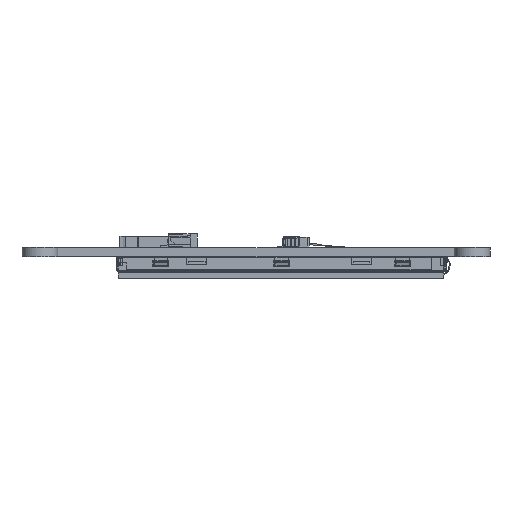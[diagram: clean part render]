
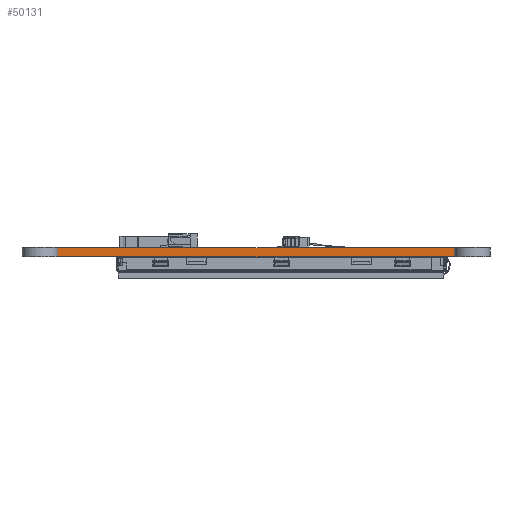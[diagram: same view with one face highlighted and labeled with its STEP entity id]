
A CAD part, left-side view. The second image highlights one B-rep face of the part: STEP entity #50131.
In plain terms, the highlighted planar face has unit normal (-1, 0, 0).
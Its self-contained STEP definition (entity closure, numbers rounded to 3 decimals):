
#4600 = EDGE_CURVE ( 'NONE', #126874, #213342, #108573, .T. ) ;
#7789 = VERTEX_POINT ( 'NONE', #66956 ) ;
#20323 = EDGE_CURVE ( 'NONE', #213342, #7789, #135081, .T. ) ;
#20549 = CARTESIAN_POINT ( 'NONE',  ( 71.074, 99.276, 58.753 ) ) ;
#22973 = CARTESIAN_POINT ( 'NONE',  ( 71.074, 99.276, 58.753 ) ) ;
#24027 = LINE ( 'NONE', #22973, #112318 ) ;
#34399 = CARTESIAN_POINT ( 'NONE',  ( 71.074, 27.127, 60.353 ) ) ;
#39543 = ORIENTED_EDGE ( 'NONE', *, *, #162554, .F. ) ;
#40285 = DIRECTION ( 'NONE',  ( 0., 1., 0. ) ) ;
#45176 = VERTEX_POINT ( 'NONE', #20549 ) ;
#50131 = ADVANCED_FACE ( 'NONE', ( #134441 ), #186507, .F. ) ;
#51156 = EDGE_LOOP ( 'NONE', ( #142994, #39543, #193827, #180006 ) ) ;
#53595 = VECTOR ( 'NONE', #158476, 1000. ) ;
#55161 = DIRECTION ( 'NONE',  ( 0., 1., 0. ) ) ;
#57042 = DIRECTION ( 'NONE',  ( 0., 1., 0. ) ) ;
#66956 = CARTESIAN_POINT ( 'NONE',  ( 71.074, 99.276, 60.353 ) ) ;
#74060 = VECTOR ( 'NONE', #57042, 1000. ) ;
#85609 = DIRECTION ( 'NONE',  ( 1., 0., 0. ) ) ;
#85992 = DIRECTION ( 'NONE',  ( 0., 0., 1. ) ) ;
#92290 = CARTESIAN_POINT ( 'NONE',  ( 71.074, 27.127, 58.753 ) ) ;
#94969 = VECTOR ( 'NONE', #40285, 1000. ) ;
#108573 = LINE ( 'NONE', #92290, #53595 ) ;
#112318 = VECTOR ( 'NONE', #85992, 1000. ) ;
#124326 = CARTESIAN_POINT ( 'NONE',  ( 71.074, 63.201, 58.753 ) ) ;
#126874 = VERTEX_POINT ( 'NONE', #140517 ) ;
#132742 = AXIS2_PLACEMENT_3D ( 'NONE', #172350, #85609, #55161 ) ;
#134441 = FACE_OUTER_BOUND ( 'NONE', #51156, .T. ) ;
#135081 = LINE ( 'NONE', #156441, #94969 ) ;
#136114 = EDGE_CURVE ( 'NONE', #126874, #45176, #187334, .T. ) ;
#140517 = CARTESIAN_POINT ( 'NONE',  ( 71.074, 27.127, 58.753 ) ) ;
#142994 = ORIENTED_EDGE ( 'NONE', *, *, #20323, .T. ) ;
#156441 = CARTESIAN_POINT ( 'NONE',  ( 71.074, 63.201, 60.353 ) ) ;
#158476 = DIRECTION ( 'NONE',  ( 0., 0., 1. ) ) ;
#162554 = EDGE_CURVE ( 'NONE', #45176, #7789, #24027, .T. ) ;
#172350 = CARTESIAN_POINT ( 'NONE',  ( 71.074, 27.127, 58.753 ) ) ;
#180006 = ORIENTED_EDGE ( 'NONE', *, *, #4600, .T. ) ;
#186507 = PLANE ( 'NONE',  #132742 ) ;
#187334 = LINE ( 'NONE', #124326, #74060 ) ;
#193827 = ORIENTED_EDGE ( 'NONE', *, *, #136114, .F. ) ;
#213342 = VERTEX_POINT ( 'NONE', #34399 ) ;
